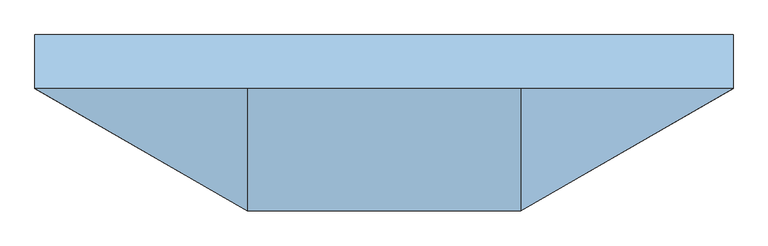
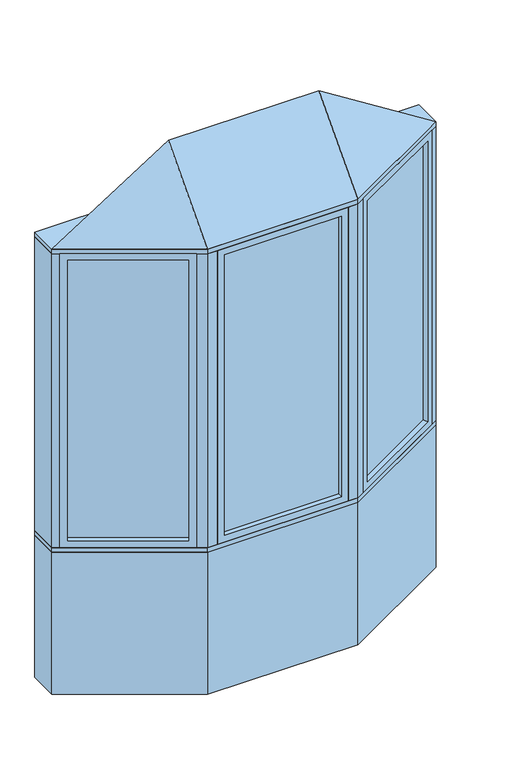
"""IFC4 building model written with IfcOpenShell, lengths in millimetres: window geometry, Pollard_Windows_Tudor Casement Bows and Bays : AML-BAY 30 AFR0516-10-600."""

from ifc_helpers import new_model, si_unit, frame, origin, origin_with_axes, place, context, project, spatial, polyline, outline, extrude, faceted_brep, source, transform, mapped, element, save


def window_7b3487dd(model_context):
    return source(origin(), model_context, "Body", "SolidModel", [
        extrude(outline(polyline([(926.612102, -82.0482469), (438.3834764, -363.9271754), (435.8434764, -359.5277664), (924.072102, -77.6488379), (926.612102, -82.0482469)])), frame((0.0, 0.0, 823.1628), z_axis=(0.0, 0.0, 1.0), x_axis=(1.0, 0.0, 0.0)), (0.0, 0.0, 1.0), 1553.6704),
        faceted_brep([(915.6135794, -88.3982469, 835.8628), (928.3135794, -110.3952922, 835.8628), (928.3135794, -110.3952922, 2364.1332), (915.6135794, -88.3982469, 2364.1332), (924.072102, -77.6488379, 823.1628), (926.612102, -82.0482469, 823.1628), (926.612102, -82.0482469, 2376.8332), (924.072102, -77.6488379, 2376.8332), (900.3735794, -62.0017926, 835.8628), (913.0735794, -83.9988379, 835.8628), (913.0735794, -83.9988379, 2364.1332), (900.3735794, -62.0017926, 2364.1332), (959.3734073, -92.4628922, 799.998), (931.4334073, -44.0693926, 799.998), (931.4334073, -44.0693926, 2399.998), (959.3734073, -92.4628922, 2399.998), (462.081999, -379.5742207, 2364.1332), (449.381999, -357.5771754, 2364.1332), (438.3834764, -363.9271754, 2376.8332), (435.8434764, -359.5277664, 2376.8332), (446.841999, -353.1777664, 2364.1332), (434.141999, -331.1807211, 2364.1332), (403.0821711, -349.1131211, 2399.998), (431.0221711, -397.5066207, 2399.998), (462.081999, -379.5742207, 835.8628), (449.381999, -357.5771754, 835.8628), (438.3834764, -363.9271754, 823.1628), (435.8434764, -359.5277664, 823.1628), (446.841999, -353.1777664, 835.8628), (434.141999, -331.1807211, 835.8628), (403.0821711, -349.1131211, 799.998), (431.0221711, -397.5066207, 799.998)], [[[0, 1, 2, 3]], [[4, 5, 6, 7]], [[8, 9, 10, 11]], [[12, 13, 14, 15]], [[3, 2, 16, 17]], [[7, 6, 18, 19]], [[11, 10, 20, 21]], [[15, 14, 22, 23]], [[17, 16, 24, 25]], [[19, 18, 26, 27]], [[21, 20, 28, 29]], [[23, 22, 30, 31]], [[25, 24, 1, 0]], [[5, 26, 18, 6], [3, 17, 25, 0]], [[27, 26, 5, 4]], [[7, 19, 27, 4], [9, 28, 20, 10]], [[29, 28, 9, 8]], [[13, 30, 22, 14], [11, 21, 29, 8]], [[31, 30, 13, 12]], [[15, 23, 31, 12], [1, 24, 16, 2]]]),
        extrude(outline(polyline([(-438.3834764, -363.9271754), (-926.612102, -82.0482469), (-924.072102, -77.6488379), (-435.8434764, -359.5277664), (-438.3834764, -363.9271754)])), frame((0.0, 0.0, 823.1628), z_axis=(0.0, 0.0, 1.0), x_axis=(1.0, 0.0, 0.0)), (0.0, 0.0, 1.0), 1553.6704),
        faceted_brep([(-446.841999, -353.1777664, 2364.1332), (-434.141999, -331.1807211, 2364.1332), (-434.141999, -331.1807211, 835.8628), (-446.841999, -353.1777664, 835.8628), (-438.3834764, -363.9271754, 2376.8332), (-435.8434764, -359.5277664, 2376.8332), (-435.8434764, -359.5277664, 823.1628), (-438.3834764, -363.9271754, 823.1628), (-462.081999, -379.5742207, 2364.1332), (-449.381999, -357.5771754, 2364.1332), (-449.381999, -357.5771754, 835.8628), (-462.081999, -379.5742207, 835.8628), (-403.0821711, -349.1131211, 2399.998), (-431.0221711, -397.5066207, 2399.998), (-431.0221711, -397.5066207, 799.998), (-403.0821711, -349.1131211, 799.998), (-900.3735794, -62.0017926, 835.8628), (-913.0735794, -83.9988379, 835.8628), (-924.072102, -77.6488379, 823.1628), (-926.612102, -82.0482469, 823.1628), (-915.6135794, -88.3982469, 835.8628), (-928.3135794, -110.3952922, 835.8628), (-959.3734073, -92.4628922, 799.998), (-931.4334073, -44.0693926, 799.998), (-900.3735794, -62.0017926, 2364.1332), (-913.0735794, -83.9988379, 2364.1332), (-924.072102, -77.6488379, 2376.8332), (-926.612102, -82.0482469, 2376.8332), (-915.6135794, -88.3982469, 2364.1332), (-928.3135794, -110.3952922, 2364.1332), (-959.3734073, -92.4628922, 2399.998), (-931.4334073, -44.0693926, 2399.998)], [[[0, 1, 2, 3]], [[4, 5, 6, 7]], [[8, 9, 10, 11]], [[12, 13, 14, 15]], [[3, 2, 16, 17]], [[7, 6, 18, 19]], [[11, 10, 20, 21]], [[15, 14, 22, 23]], [[17, 16, 24, 25]], [[19, 18, 26, 27]], [[21, 20, 28, 29]], [[23, 22, 30, 31]], [[15, 23, 31, 12], [1, 24, 16, 2]], [[25, 24, 1, 0]], [[5, 26, 18, 6], [3, 17, 25, 0]], [[27, 26, 5, 4]], [[7, 19, 27, 4], [9, 28, 20, 10]], [[29, 28, 9, 8]], [[13, 30, 22, 14], [11, 21, 29, 8]], [[31, 30, 13, 12]]]),
        extrude(outline(polyline([(314.5561009, -397.1066207), (-314.5561009, -397.1066207), (-314.5561009, -392.0266207), (314.5561009, -392.0266207), (314.5561009, -397.1066207)])), frame((0.0, 0.0, 823.1628), z_axis=(0.0, 0.0, 1.0), x_axis=(1.0, 0.0, 0.0)), (0.0, 0.0, 1.0), 1553.6704),
        faceted_brep([(301.8561009, -397.1066207, 835.8628), (301.8561009, -422.5066207, 835.8628), (301.8561009, -422.5066207, 2364.1332), (301.8561009, -397.1066207, 2364.1332), (314.5561009, -392.0266207, 823.1628), (314.5561009, -397.1066207, 823.1628), (314.5561009, -397.1066207, 2376.8332), (314.5561009, -392.0266207, 2376.8332), (301.8561009, -366.6266207, 835.8628), (301.8561009, -392.0266207, 835.8628), (301.8561009, -392.0266207, 2364.1332), (301.8561009, -366.6266207, 2364.1332), (337.7209009, -422.5066207, 799.998), (337.7209009, -366.6266207, 799.998), (337.7209009, -366.6266207, 2399.998), (337.7209009, -422.5066207, 2399.998), (-301.8561009, -422.5066207, 2364.1332), (-301.8561009, -397.1066207, 2364.1332), (-314.5561009, -397.1066207, 2376.8332), (-314.5561009, -392.0266207, 2376.8332), (-301.8561009, -392.0266207, 2364.1332), (-301.8561009, -366.6266207, 2364.1332), (-337.7209009, -366.6266207, 2399.998), (-337.7209009, -422.5066207, 2399.998), (-301.8561009, -422.5066207, 835.8628), (-301.8561009, -397.1066207, 835.8628), (-314.5561009, -397.1066207, 823.1628), (-314.5561009, -392.0266207, 823.1628), (-301.8561009, -392.0266207, 835.8628), (-301.8561009, -366.6266207, 835.8628), (-337.7209009, -366.6266207, 799.998), (-337.7209009, -422.5066207, 799.998)], [[[0, 1, 2, 3]], [[4, 5, 6, 7]], [[8, 9, 10, 11]], [[12, 13, 14, 15]], [[3, 2, 16, 17]], [[7, 6, 18, 19]], [[11, 10, 20, 21]], [[15, 14, 22, 23]], [[17, 16, 24, 25]], [[19, 18, 26, 27]], [[21, 20, 28, 29]], [[23, 22, 30, 31]], [[15, 23, 31, 12], [1, 24, 16, 2]], [[25, 24, 1, 0]], [[5, 26, 18, 6], [3, 17, 25, 0]], [[27, 26, 5, 4]], [[7, 19, 27, 4], [9, 28, 20, 10]], [[29, 28, 9, 8]], [[13, 30, 22, 14], [11, 21, 29, 8]], [[31, 30, 13, 12]]]),
        faceted_brep([(990.0, -74.7806207, 2425.398), (387.7209009, -422.5066207, 2425.398), (-387.7209009, -422.5066207, 2425.398), (-990.0, -74.7806207, 2425.398), (-387.7209009, -74.7806207, 2806.398), (387.7209009, -74.7806207, 2806.398)], [[[0, 1, 2, 3]], [[3, 2, 4]], [[2, 1, 5, 4]], [[1, 0, 5]], [[0, 3, 4, 5]]]),
        extrude(outline(polyline([(-990.0, 77.6193793), (990.0, 77.6193793), (990.0, -74.7806207), (387.7209009, -422.5066207), (-387.7209009, -422.5066207), (-990.0, -74.7806207), (-990.0, 77.6193793)])), frame((0.0, 0.0, 2399.998), z_axis=(0.0, 0.0, 1.0), x_axis=(1.0, 0.0, 0.0)), (0.0, 0.0, 1.0), 25.4),
        extrude(outline(polyline([(-990.0, -74.7806207), (-990.0, 77.6193793), (-949.1645431, 77.6193793), (-949.1645431, -74.7806207), (-959.3734073, -92.4628922), (-990.0, -74.7806207)])), frame((0.0, 0.0, 799.998), z_axis=(0.0, 0.0, 1.0), x_axis=(1.0, 0.0, 0.0)), (0.0, 0.0, 1.0), 1600.0),
        extrude(outline(polyline([(990.0, 77.6193793), (990.0, -74.7806207), (959.3734073, -92.4628922), (949.1645431, -74.7806207), (949.1645431, 77.6193793), (990.0, 77.6193793)])), frame((0.0, 0.0, 799.998), z_axis=(0.0, 0.0, 1.0), x_axis=(1.0, 0.0, 0.0)), (0.0, 0.0, 1.0), 1600.0),
        extrude(outline(polyline([(387.7209009, -422.5066207), (337.7209009, -422.5066207), (337.7209009, -372.5066207), (374.3234413, -372.5066207), (406.0221711, -354.2053505), (431.0221711, -397.5066207), (387.7209009, -422.5066207)])), frame((0.0, 0.0, 799.998), z_axis=(0.0, 0.0, 1.0), x_axis=(1.0, 0.0, 0.0)), (0.0, 0.0, 1.0), 1600.0),
        extrude(outline(polyline([(-387.7209009, -422.5066207), (-431.0221711, -397.5066207), (-406.0221711, -354.2053505), (-374.3234413, -372.5066207), (-337.7209009, -372.5066207), (-337.7209009, -422.5066207), (-387.7209009, -422.5066207)])), frame((0.0, 0.0, 799.998), z_axis=(0.0, 0.0, 1.0), x_axis=(1.0, 0.0, 0.0)), (0.0, 0.0, 1.0), 1600.0),
        extrude(outline(polyline([(-387.7209009, -422.5066207), (-990.0, -74.7806207), (-990.0, 77.6193793), (-949.1645431, 77.6193793), (-346.885444, -270.1066207), (346.885444, -270.1066207), (949.1645431, 77.6193793), (990.0, 77.6193793), (990.0, -74.7806207), (387.7209009, -422.5066207), (-387.7209009, -422.5066207)])), frame((0.0, 0.0, 774.598), z_axis=(0.0, 0.0, 1.0), x_axis=(1.0, 0.0, 0.0)), (0.0, 0.0, 1.0), 25.4),
        extrude(outline(polyline([(-990.0, -74.7806207), (-990.0, 77.6193793), (-949.1645431, 77.6193793), (-346.885444, -270.1066207), (346.885444, -270.1066207), (949.1645431, 77.6193793), (990.0, 77.6193793), (990.0, -74.7806207), (387.7209009, -422.5066207), (-387.7209009, -422.5066207), (-990.0, -74.7806207)])), origin_with_axes(), (0.0, 0.0, 1.0), 774.598),
    ])


if __name__ == "__main__":
    model = new_model("IFC4")
    model_context = context("Model", 3, world=origin())
    ifc_project = project(units=[si_unit("LENGTHUNIT", "METRE", prefix="MILLI")], contexts=[model_context])
    site = spatial("IfcSite", under=ifc_project)
    building = spatial("IfcBuilding", under=site)
    placement = place(None, origin())
    window_shape = window_7b3487dd(model_context)
    element("IfcWindow", 1, ObjectType="Pollard_Windows_Tudor Casement Bows and Bays : AML-BAY 30 AFR0516-10-600", at=placement, inside=building, context=model_context, shape_type="MappedRepresentation", body=[
        mapped(window_shape, transform((0.0, 0.0, 0.0), x_axis=(1.0, 0.0, 0.0), y_axis=(0.0, 1.0, 0.0), z_axis=(0.0, 0.0, 1.0))),
    ])
    save(model, "model.ifc")
